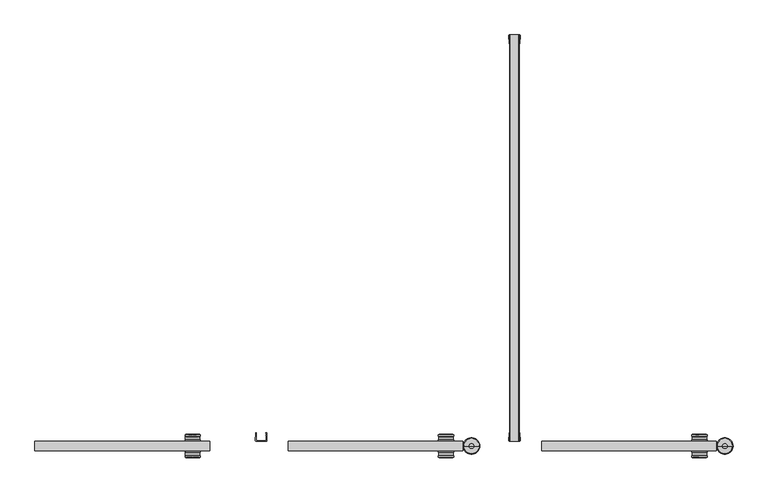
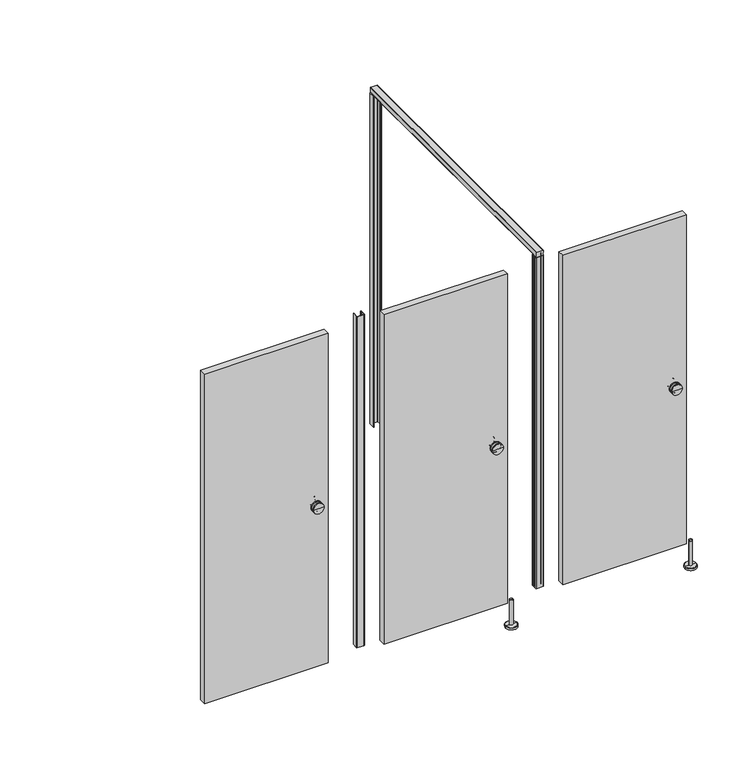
"""IFC4 building model written with IfcOpenShell, lengths in millimetres: proxy geometry, Partition_EuroStyle-Bradley_Corp-ADAStall_3StandardStall-NEP-LOFT : Partition_EuroStyle-Bradley_Corp-ADAStall_3StandardStall-NEP-LOFT."""

from ifc_helpers import new_model, si_unit, point, frame, frame_2d, origin, place, context, project, spatial, polyline, circle_curve, ellipse_curve, trimmed, segment, composite_curve, outline, extrude, source, transform, mapped, element, save
from ifc_brep_helpers import plane_surface, cylinder_surface, revolved_surface, advanced_brep


def specialty_equipment_3219aa44(model_context):
    return source(origin(), model_context, "Body", "SolidModel", [
        advanced_brep(
        [(3980.8451766, -1524.0098174, 1050.0), (4037.9951766, -1524.0098174, 1050.0), (4009.4201766, -1524.0098174, 1050.0), (3980.8451766, -1519.2473174, 1050.0), (4037.9951766, -1519.2473174, 1050.0), (3980.8451766, -1500.1973174, 1050.0), (4037.9951766, -1500.1973174, 1050.0), (4037.9951766, -1504.9598174, 1050.0), (3980.8451766, -1504.9598174, 1050.0), (4036.4076766, -1506.5473174, 1050.0), (3982.4326766, -1506.5473174, 1050.0), (4036.4076766, -1517.6598174, 1050.0), (3982.4326766, -1517.6598174, 1050.0), (4009.4201766, -1498.6098174, 1050.0)],
        [
            (0, 1, circle_curve(frame((4009.4201766, -1524.0098174, 1050.0), z_axis=(0.0, -1.0, 0.0), x_axis=(1.0, 0.0, 0.0)), 28.575)),
            (1, 2),
            (2, 0),
            (1, 0, circle_curve(frame((4009.4201766, -1524.0098174, 1050.0), z_axis=(0.0, -1.0, 0.0), x_axis=(1.0, 0.0, 0.0)), 28.575)),
            (3, 4, circle_curve(frame((4009.4201766, -1519.2473174, 1050.0), z_axis=(0.0, -1.0, 0.0), x_axis=(1.0, 0.0, 0.0)), 28.575)),
            (4, 1),
            (0, 3),
            (4, 3, circle_curve(frame((4009.4201766, -1519.2473174, 1050.0), z_axis=(0.0, -1.0, 0.0), x_axis=(1.0, 0.0, 0.0)), 28.575)),
            (5, 6, circle_curve(frame((4009.4201766, -1500.1973174, 1050.0), z_axis=(0.0, -1.0, 0.0), x_axis=(1.0, 0.0, 0.0)), 28.575)),
            (6, 7),
            (7, 8, circle_curve(frame((4009.4201766, -1504.9598174, 1050.0), z_axis=(0.0, 1.0, 0.0), x_axis=(1.0, 0.0, 0.0)), 28.575)),
            (8, 5),
            (6, 5, circle_curve(frame((4009.4201766, -1500.1973174, 1050.0), z_axis=(0.0, -1.0, 0.0), x_axis=(1.0, 0.0, 0.0)), 28.575)),
            (8, 7, circle_curve(frame((4009.4201766, -1504.9598174, 1050.0), z_axis=(0.0, 1.0, 0.0), x_axis=(1.0, 0.0, 0.0)), 28.575)),
            (7, 9, circle_curve(frame((4037.9951766, -1506.5473174, 1050.0), z_axis=(0.0, 0.0, 1.0), x_axis=(1.0, 0.0, 0.0)), 1.5875)),
            (9, 10, circle_curve(frame((4009.4201766, -1506.5473174, 1050.0), z_axis=(0.0, 1.0, 0.0), x_axis=(1.0, 0.0, 0.0)), 26.9875)),
            (10, 8, circle_curve(frame((3980.8451766, -1506.5473174, 1050.0), z_axis=(0.0, 0.0, 1.0), x_axis=(-1.0, 0.0, 0.0)), 1.5875)),
            (10, 9, circle_curve(frame((4009.4201766, -1506.5473174, 1050.0), z_axis=(0.0, 1.0, 0.0), x_axis=(1.0, 0.0, 0.0)), 26.9875)),
            (9, 11),
            (11, 12, circle_curve(frame((4009.4201766, -1517.6598174, 1050.0), z_axis=(0.0, 1.0, 0.0), x_axis=(1.0, 0.0, 0.0)), 26.9875)),
            (12, 10),
            (12, 11, circle_curve(frame((4009.4201766, -1517.6598174, 1050.0), z_axis=(0.0, 1.0, 0.0), x_axis=(1.0, 0.0, 0.0)), 26.9875)),
            (11, 4, circle_curve(frame((4037.9951766, -1517.6598174, 1050.0), z_axis=(0.0, 0.0, 1.0), x_axis=(1.0, 0.0, 0.0)), 1.5875)),
            (3, 12, circle_curve(frame((3980.8451766, -1517.6598174, 1050.0), z_axis=(0.0, 0.0, 1.0), x_axis=(-1.0, 0.0, 0.0)), 1.5875)),
            (13, 6, circle_curve(frame((4013.1143, -1690.0843466, 1050.0), z_axis=(0.0, 0.0, -1.0), x_axis=(1.0, 0.0, 0.0)), 191.5101613)),
            (5, 13, circle_curve(frame((4005.7260533, -1690.0843466, 1050.0), z_axis=(0.0, 0.0, -1.0), x_axis=(-1.0, 0.0, 0.0)), 191.5101613)),
        ],
        [
            plane_surface(frame((4009.4201766, -1524.0098174, 1050.0), z_axis=(0.0, -1.0, 0.0), x_axis=(1.0, 0.0, 0.0))),
            cylinder_surface(frame((4009.4201766, -1524.0098174, 1050.0), z_axis=(0.0, 1.0, 0.0), x_axis=(1.0, 0.0, 0.0)), 28.575),
            revolved_surface(trimmed(ellipse_curve(frame((4037.9951766, -1506.5473174, 1050.0), z_axis=(0.0, 0.0, -1.0), x_axis=(1.0, 0.0, 0.0)), 1.5875, 1.5875), [point((4036.4076766, -1506.5473174, 1050.0))], [point((4037.9951766, -1504.9598174, 1050.0))], True, "CARTESIAN"), (4009.4201766, -1524.0098174, 1050.0), (0.0, 1.0, 0.0)),
            cylinder_surface(frame((4009.4201766, -1524.0098174, 1050.0), z_axis=(0.0, 1.0, 0.0), x_axis=(1.0, 0.0, 0.0)), 26.9875),
            revolved_surface(trimmed(ellipse_curve(frame((4037.9951766, -1517.6598174, 1050.0), z_axis=(0.0, 0.0, -1.0), x_axis=(1.0, 0.0, 0.0)), 1.5875, 1.5875), [point((4037.9951766, -1519.2473174, 1050.0))], [point((4036.4076766, -1517.6598174, 1050.0))], True, "CARTESIAN"), (4009.4201766, -1524.0098174, 1050.0), (0.0, 1.0, 0.0)),
            revolved_surface(trimmed(ellipse_curve(frame((4013.1143, -1690.0843466, 1050.0), z_axis=(0.0, 0.0, 1.0), x_axis=(1.0, 0.0, 0.0)), 191.5101613, 191.5101613), [point((4037.9951766, -1500.1973174, 1050.0))], [point((4009.4201766, -1498.6098174, 1050.0))], True, "CARTESIAN"), (4009.4201766, -1524.0098174, 1050.0), (0.0, 1.0, 0.0)),
        ],
        [
            (0, [[1, 2, 3]]),
            (0, [[4, -3, -2]]),
            (1, [[5, 6, -1, 7]]),
            (1, [[8, -7, -4, -6]]),
            (1, [[9, 10, 11, 12]]),
            (1, [[13, -12, 14, -10]]),
            (2, [[-11, 15, 16, 17]]),
            (2, [[-14, -17, 18, -15]]),
            (3, [[-16, 19, 20, 21]]),
            (3, [[-18, -21, 22, -19]]),
            (4, [[-20, 23, -5, 24]]),
            (4, [[-22, -24, -8, -23]]),
            (5, [[25, -9, 26]]),
            (5, [[-26, -13, -25]]),
        ],
    ),
        advanced_brep(
        [(4009.4201766, -1560.0098174, 1050.0), (4037.9951766, -1560.0098174, 1050.0), (3980.8451766, -1560.0098174, 1050.0), (4037.9951766, -1564.7723174, 1050.0), (3980.8451766, -1564.7723174, 1050.0), (3980.8451766, -1579.0598174, 1050.0), (4037.9951766, -1579.0598174, 1050.0), (4037.9951766, -1583.8223174, 1050.0), (3980.8451766, -1583.8223174, 1050.0), (3982.4326766, -1577.4723174, 1050.0), (4036.4076766, -1577.4723174, 1050.0), (3982.4326766, -1566.3598174, 1050.0), (4036.4076766, -1566.3598174, 1050.0), (4009.4201766, -1585.4098174, 1050.0)],
        [
            (0, 1),
            (1, 2, circle_curve(frame((4009.4201766, -1560.0098174, 1050.0), z_axis=(0.0, 1.0, 0.0), x_axis=(1.0, 0.0, 0.0)), 28.575)),
            (2, 0),
            (2, 1, circle_curve(frame((4009.4201766, -1560.0098174, 1050.0), z_axis=(0.0, 1.0, 0.0), x_axis=(1.0, 0.0, 0.0)), 28.575)),
            (1, 3),
            (3, 4, circle_curve(frame((4009.4201766, -1564.7723174, 1050.0), z_axis=(0.0, 1.0, 0.0), x_axis=(1.0, 0.0, 0.0)), 28.575)),
            (4, 2),
            (4, 3, circle_curve(frame((4009.4201766, -1564.7723174, 1050.0), z_axis=(0.0, 1.0, 0.0), x_axis=(1.0, 0.0, 0.0)), 28.575)),
            (5, 6, circle_curve(frame((4009.4201766, -1579.0598174, 1050.0), z_axis=(0.0, -1.0, 0.0), x_axis=(1.0, 0.0, 0.0)), 28.575)),
            (6, 7),
            (7, 8, circle_curve(frame((4009.4201766, -1583.8223174, 1050.0), z_axis=(0.0, 1.0, 0.0), x_axis=(1.0, 0.0, 0.0)), 28.575)),
            (8, 5),
            (6, 5, circle_curve(frame((4009.4201766, -1579.0598174, 1050.0), z_axis=(0.0, -1.0, 0.0), x_axis=(1.0, 0.0, 0.0)), 28.575)),
            (8, 7, circle_curve(frame((4009.4201766, -1583.8223174, 1050.0), z_axis=(0.0, 1.0, 0.0), x_axis=(1.0, 0.0, 0.0)), 28.575)),
            (9, 10, circle_curve(frame((4009.4201766, -1577.4723174, 1050.0), z_axis=(0.0, -1.0, 0.0), x_axis=(1.0, 0.0, 0.0)), 26.9875)),
            (10, 6, circle_curve(frame((4037.9951766, -1577.4723174, 1050.0), z_axis=(0.0, 0.0, 1.0), x_axis=(1.0, 0.0, 0.0)), 1.5875)),
            (5, 9, circle_curve(frame((3980.8451766, -1577.4723174, 1050.0), z_axis=(0.0, 0.0, 1.0), x_axis=(-1.0, 0.0, 0.0)), 1.5875)),
            (10, 9, circle_curve(frame((4009.4201766, -1577.4723174, 1050.0), z_axis=(0.0, -1.0, 0.0), x_axis=(1.0, 0.0, 0.0)), 26.9875)),
            (11, 12, circle_curve(frame((4009.4201766, -1566.3598174, 1050.0), z_axis=(0.0, -1.0, 0.0), x_axis=(1.0, 0.0, 0.0)), 26.9875)),
            (12, 10),
            (9, 11),
            (12, 11, circle_curve(frame((4009.4201766, -1566.3598174, 1050.0), z_axis=(0.0, -1.0, 0.0), x_axis=(1.0, 0.0, 0.0)), 26.9875)),
            (3, 12, circle_curve(frame((4037.9951766, -1566.3598174, 1050.0), z_axis=(0.0, 0.0, 1.0), x_axis=(1.0, 0.0, 0.0)), 1.5875)),
            (11, 4, circle_curve(frame((3980.8451766, -1566.3598174, 1050.0), z_axis=(0.0, 0.0, 1.0), x_axis=(-1.0, 0.0, 0.0)), 1.5875)),
            (7, 13, circle_curve(frame((4013.1143, -1393.9352882, 1050.0), z_axis=(0.0, 0.0, -1.0), x_axis=(1.0, 0.0, 0.0)), 191.5101613)),
            (13, 8, circle_curve(frame((4005.7260533, -1393.9352882, 1050.0), z_axis=(0.0, 0.0, -1.0), x_axis=(-1.0, 0.0, 0.0)), 191.5101613)),
        ],
        [
            plane_surface(frame((4009.4201766, -1560.0098174, 1050.0), z_axis=(0.0, 1.0, 0.0), x_axis=(1.0, 0.0, 0.0))),
            cylinder_surface(frame((4009.4201766, -1560.0098174, 1050.0), z_axis=(0.0, 1.0, 0.0), x_axis=(1.0, 0.0, 0.0)), 28.575),
            revolved_surface(trimmed(ellipse_curve(frame((4037.9951766, -1577.4723174, 1050.0), z_axis=(0.0, 0.0, -1.0), x_axis=(1.0, 0.0, 0.0)), 1.5875, 1.5875), [point((4037.9951766, -1579.0598174, 1050.0))], [point((4036.4076766, -1577.4723174, 1050.0))], True, "CARTESIAN"), (4009.4201766, -1560.0098174, 1050.0), (0.0, 1.0, 0.0)),
            cylinder_surface(frame((4009.4201766, -1560.0098174, 1050.0), z_axis=(0.0, 1.0, 0.0), x_axis=(1.0, 0.0, 0.0)), 26.9875),
            revolved_surface(trimmed(ellipse_curve(frame((4037.9951766, -1566.3598174, 1050.0), z_axis=(0.0, 0.0, -1.0), x_axis=(1.0, 0.0, 0.0)), 1.5875, 1.5875), [point((4036.4076766, -1566.3598174, 1050.0))], [point((4037.9951766, -1564.7723174, 1050.0))], True, "CARTESIAN"), (4009.4201766, -1560.0098174, 1050.0), (0.0, 1.0, 0.0)),
            revolved_surface(trimmed(ellipse_curve(frame((4013.1143, -1393.9352882, 1050.0), z_axis=(0.0, 0.0, 1.0), x_axis=(1.0, 0.0, 0.0)), 191.5101613, 191.5101613), [point((4009.4201766, -1585.4098174, 1050.0))], [point((4037.9951766, -1583.8223174, 1050.0))], True, "CARTESIAN"), (4009.4201766, -1560.0098174, 1050.0), (0.0, 1.0, 0.0)),
        ],
        [
            (0, [[1, 2, 3]]),
            (0, [[-3, 4, -1]]),
            (1, [[-2, 5, 6, 7]]),
            (1, [[-4, -7, 8, -5]]),
            (1, [[9, 10, 11, 12]]),
            (1, [[13, -12, 14, -10]]),
            (2, [[15, 16, -9, 17]]),
            (2, [[18, -17, -13, -16]]),
            (3, [[19, 20, -15, 21]]),
            (3, [[22, -21, -18, -20]]),
            (4, [[-6, 23, -19, 24]]),
            (4, [[-8, -24, -22, -23]]),
            (5, [[-11, 25, 26]]),
            (5, [[-14, -26, -25]]),
        ],
    ),
        extrude(outline(polyline([(3417.8170903, -1523.9894923), (4072.9201766, -1523.9894923), (4072.9201766, -1560.0098174), (3417.8170903, -1560.0098174), (3417.8170903, -1523.9894923)])), frame((0.0, 0.0, 150.1179687), z_axis=(0.0, 0.0, 1.0), x_axis=(1.0, 0.0, 0.0)), (0.0, 0.0, 1.0), 1845.8820313),
        extrude(outline(composite_curve([segment(polyline([(3295.3288796, -1491.4999998), (3296.8274652, -1491.4999998)]), True, "CONTINUOUS"), segment(trimmed(circle_curve(frame_2d((3296.8238978, -1492.4990918)), 0.9990984), [point((3296.8274652, -1491.4999998))], [point((3297.2975504, -1493.3787798))], False, "CARTESIAN"), True, "CONTINUOUS"), segment(polyline([(3297.2975504, -1493.3787798), (3297.1764404, -1500.6424298)]), True, "CONTINUOUS"), segment(trimmed(circle_curve(frame_2d((3296.6588945, -1501.4999449)), 1.0015917), [point((3297.1764404, -1500.6424298))], [point((3297.1475604, -1502.3742398))], False, "CARTESIAN"), True, "CONTINUOUS"), segment(polyline([(3297.1475604, -1502.3742398), (3296.8535049, -1520.0104531)]), True, "CONTINUOUS"), segment(trimmed(circle_curve(frame_2d((3298.8536968, -1519.9997796)), 2.0002204), [point((3296.8535049, -1520.0104531))], [point((3298.8536968, -1522.0))], True, "CARTESIAN"), True, "CONTINUOUS"), segment(polyline([(3298.8536968, -1522.0), (3332.7379958, -1522.0)]), True, "CONTINUOUS"), segment(trimmed(circle_curve(frame_2d((3332.7870154, -1520.0009061)), 1.9996948), [point((3332.7379958, -1522.0))], [point((3334.78671, -1520.0))], True, "CARTESIAN"), True, "CONTINUOUS"), segment(polyline([(3334.78671, -1520.0), (3334.4926587, -1502.3739987)]), True, "CONTINUOUS"), segment(trimmed(circle_curve(frame_2d((3334.9817558, -1501.4999449)), 1.0015917), [point((3334.4926587, -1502.3739987))], [point((3334.4642099, -1500.6424298))], False, "CARTESIAN"), True, "CONTINUOUS"), segment(polyline([(3334.4642099, -1500.6424298), (3334.3430999, -1493.3787798)]), True, "CONTINUOUS"), segment(trimmed(circle_curve(frame_2d((3334.8167525, -1492.4990918)), 0.9990984), [point((3334.3430999, -1493.3787798))], [point((3334.8131851, -1491.4999998))], False, "CARTESIAN"), True, "CONTINUOUS"), segment(polyline([(3334.8131851, -1491.4999998), (3336.3117707, -1491.4999998), (3336.8201098, -1521.97082)]), True, "CONTINUOUS"), segment(trimmed(circle_curve(frame_2d((3334.7909298, -1521.97082)), 2.02918), [point((3336.8201098, -1521.97082))], [point((3334.7909298, -1524.0))], False, "CARTESIAN"), True, "CONTINUOUS"), segment(polyline([(3334.7909298, -1524.0), (3296.8497205, -1524.0)]), True, "CONTINUOUS"), segment(trimmed(circle_curve(frame_2d((3296.8497205, -1521.97082)), 2.02918), [point((3296.8497205, -1524.0))], [point((3294.8205405, -1521.97082))], False, "CARTESIAN"), True, "CONTINUOUS"), segment(polyline([(3294.8205405, -1521.97082), (3295.3288796, -1491.4999998)]), True, "CONTINUOUS")], self_intersect=False)), frame((0.0, 0.0, 150.0), z_axis=(0.0, 0.0, 1.0), x_axis=(1.0, 0.0, 0.0)), (0.0, 0.0, 1.0), 1855.0),
        advanced_brep(
        [(4095.8453255, -1541.9996549, 150.0000008), (4113.8453248, -1541.9996549, 150.0000008), (4113.8453248, -1541.9996549, 12.0000001), (4095.8453255, -1541.9996549, 12.0000001), (4104.8453251, -1541.9996549, 150.0000008), (4073.8453262, -1541.9996549, 0.0), (4135.8453241, -1541.9996549, 0.0), (4104.8453251, -1541.9996549, 0.0), (4073.8453262, -1541.9996549, 10.0000001), (4135.8453241, -1541.9996549, 10.0000001), (4075.8477381, -1541.9996549, 12.0000001), (4133.8429122, -1541.9996549, 12.0000001)],
        [
            (0, 1, circle_curve(frame((4104.8453251, -1541.9996549, 150.0000008), z_axis=(0.0, 0.0, -1.0), x_axis=(1.0, 0.0, 0.0)), 8.9999997)),
            (1, 2),
            (2, 3, circle_curve(frame((4104.8453251, -1541.9996549, 12.0000001), z_axis=(0.0, 0.0, 1.0), x_axis=(1.0, 0.0, 0.0)), 8.9999997)),
            (3, 0),
            (1, 0, circle_curve(frame((4104.8453251, -1541.9996549, 150.0000008), z_axis=(0.0, 0.0, -1.0), x_axis=(1.0, 0.0, 0.0)), 8.9999997)),
            (3, 2, circle_curve(frame((4104.8453251, -1541.9996549, 12.0000001), z_axis=(0.0, 0.0, 1.0), x_axis=(1.0, 0.0, 0.0)), 8.9999997)),
            (4, 1),
            (0, 4),
            (5, 6, circle_curve(frame((4104.8453251, -1541.9996549, 0.0), z_axis=(0.0, 0.0, -1.0), x_axis=(1.0, 0.0, 0.0)), 30.9999989)),
            (6, 7),
            (7, 5),
            (6, 5, circle_curve(frame((4104.8453251, -1541.9996549, 0.0), z_axis=(0.0, 0.0, -1.0), x_axis=(1.0, 0.0, 0.0)), 30.9999989)),
            (8, 9, circle_curve(frame((4104.8453251, -1541.9996549, 10.0000001), z_axis=(0.0, 0.0, -1.0), x_axis=(1.0, 0.0, 0.0)), 30.9999989)),
            (9, 6),
            (5, 8),
            (9, 8, circle_curve(frame((4104.8453251, -1541.9996549, 10.0000001), z_axis=(0.0, 0.0, -1.0), x_axis=(1.0, 0.0, 0.0)), 30.9999989)),
            (10, 11, circle_curve(frame((4104.8453251, -1541.9996549, 12.0000001), z_axis=(0.0, 0.0, -1.0), x_axis=(1.0, 0.0, 0.0)), 28.997587)),
            (11, 9),
            (8, 10),
            (11, 10, circle_curve(frame((4104.8453251, -1541.9996549, 12.0000001), z_axis=(0.0, 0.0, -1.0), x_axis=(1.0, 0.0, 0.0)), 28.997587)),
            (2, 11),
            (10, 3),
        ],
        [
            cylinder_surface(frame((4104.8453251, -1541.9996549, 0.0), z_axis=(0.0, 0.0, 1.0), x_axis=(1.0, 0.0, 0.0)), 8.9999997),
            plane_surface(frame((4104.8453251, -1541.9996549, 150.0000008), z_axis=(0.0, 0.0, 1.0), x_axis=(1.0, 0.0, 0.0))),
            plane_surface(frame((4104.8453251, -1541.9996549, 0.0), z_axis=(0.0, 0.0, -1.0), x_axis=(1.0, 0.0, 0.0))),
            cylinder_surface(frame((4104.8453251, -1541.9996549, 0.0), z_axis=(0.0, 0.0, 1.0), x_axis=(1.0, 0.0, 0.0)), 30.9999989),
            revolved_surface(polyline([(4135.8453241, -1541.9996549, 10.0000001), (4133.8429122, -1541.9996549, 12.0000001)]), (4104.8453251, -1541.9996549, 0.0), (0.0, 0.0, 1.0)),
            plane_surface(frame((4104.8453251, -1541.9996549, 12.0000001), z_axis=(0.0, 0.0, 1.0), x_axis=(1.0, 0.0, 0.0))),
        ],
        [
            (0, [[1, 2, 3, 4]]),
            (0, [[5, -4, 6, -2]]),
            (1, [[7, -1, 8]]),
            (1, [[-8, -5, -7]]),
            (2, [[9, 10, 11]]),
            (2, [[12, -11, -10]]),
            (3, [[13, 14, -9, 15]]),
            (3, [[16, -15, -12, -14]]),
            (4, [[17, 18, -13, 19]]),
            (4, [[20, -19, -16, -18]]),
            (5, [[-3, 21, -17, 22]]),
            (5, [[-6, -22, -20, -21]]),
        ],
    ),
        extrude(outline(composite_curve([segment(polyline([(2344.9288796, -1491.4999998), (2346.4274652, -1491.4999998)]), True, "CONTINUOUS"), segment(trimmed(circle_curve(frame_2d((2346.4238978, -1492.4990918)), 0.9990984), [point((2346.4274652, -1491.4999998))], [point((2346.8975504, -1493.3787798))], False, "CARTESIAN"), True, "CONTINUOUS"), segment(polyline([(2346.8975504, -1493.3787798), (2346.7764404, -1500.6424298)]), True, "CONTINUOUS"), segment(trimmed(circle_curve(frame_2d((2346.2588945, -1501.4999449)), 1.0015917), [point((2346.7764404, -1500.6424298))], [point((2346.7475604, -1502.3742398))], False, "CARTESIAN"), True, "CONTINUOUS"), segment(polyline([(2346.7475604, -1502.3742398), (2346.4535049, -1520.0104531)]), True, "CONTINUOUS"), segment(trimmed(circle_curve(frame_2d((2348.4536968, -1519.9997796)), 2.0002204), [point((2346.4535049, -1520.0104531))], [point((2348.4536968, -1522.0))], True, "CARTESIAN"), True, "CONTINUOUS"), segment(polyline([(2348.4536968, -1522.0), (2382.3379958, -1522.0)]), True, "CONTINUOUS"), segment(trimmed(circle_curve(frame_2d((2382.3870154, -1520.0009061)), 1.9996948), [point((2382.3379958, -1522.0))], [point((2384.38671, -1520.0))], True, "CARTESIAN"), True, "CONTINUOUS"), segment(polyline([(2384.38671, -1520.0), (2384.0926587, -1502.3739987)]), True, "CONTINUOUS"), segment(trimmed(circle_curve(frame_2d((2384.5817558, -1501.4999449)), 1.0015917), [point((2384.0926587, -1502.3739987))], [point((2384.0642099, -1500.6424298))], False, "CARTESIAN"), True, "CONTINUOUS"), segment(polyline([(2384.0642099, -1500.6424298), (2383.9430999, -1493.3787798)]), True, "CONTINUOUS"), segment(trimmed(circle_curve(frame_2d((2384.4167525, -1492.4990918)), 0.9990984), [point((2383.9430999, -1493.3787798))], [point((2384.4131851, -1491.4999998))], False, "CARTESIAN"), True, "CONTINUOUS"), segment(polyline([(2384.4131851, -1491.4999998), (2385.9117707, -1491.4999998), (2386.4201098, -1521.97082)]), True, "CONTINUOUS"), segment(trimmed(circle_curve(frame_2d((2384.3909298, -1521.97082)), 2.02918), [point((2386.4201098, -1521.97082))], [point((2384.3909298, -1524.0))], False, "CARTESIAN"), True, "CONTINUOUS"), segment(polyline([(2384.3909298, -1524.0), (2346.4497205, -1524.0)]), True, "CONTINUOUS"), segment(trimmed(circle_curve(frame_2d((2346.4497205, -1521.97082)), 2.02918), [point((2346.4497205, -1524.0))], [point((2344.4205405, -1521.97082))], False, "CARTESIAN"), True, "CONTINUOUS"), segment(polyline([(2344.4205405, -1521.97082), (2344.9288796, -1491.4999998)]), True, "CONTINUOUS")], self_intersect=False)), frame((0.0, 0.0, 150.0), z_axis=(0.0, 0.0, 1.0), x_axis=(1.0, 0.0, 0.0)), (0.0, 0.0, 1.0), 1855.0),
        advanced_brep(
        [(3030.4451766, -1524.0098174, 1050.0), (3087.5951766, -1524.0098174, 1050.0), (3059.0201766, -1524.0098174, 1050.0), (3030.4451766, -1519.2473174, 1050.0), (3087.5951766, -1519.2473174, 1050.0), (3030.4451766, -1500.1973174, 1050.0), (3087.5951766, -1500.1973174, 1050.0), (3087.5951766, -1504.9598174, 1050.0), (3030.4451766, -1504.9598174, 1050.0), (3086.0076766, -1506.5473174, 1050.0), (3032.0326766, -1506.5473174, 1050.0), (3086.0076766, -1517.6598174, 1050.0), (3032.0326766, -1517.6598174, 1050.0), (3059.0201766, -1498.6098174, 1050.0)],
        [
            (0, 1, circle_curve(frame((3059.0201766, -1524.0098174, 1050.0), z_axis=(0.0, -1.0, 0.0), x_axis=(1.0, 0.0, 0.0)), 28.575)),
            (1, 2),
            (2, 0),
            (1, 0, circle_curve(frame((3059.0201766, -1524.0098174, 1050.0), z_axis=(0.0, -1.0, 0.0), x_axis=(1.0, 0.0, 0.0)), 28.575)),
            (3, 4, circle_curve(frame((3059.0201766, -1519.2473174, 1050.0), z_axis=(0.0, -1.0, 0.0), x_axis=(1.0, 0.0, 0.0)), 28.575)),
            (4, 1),
            (0, 3),
            (4, 3, circle_curve(frame((3059.0201766, -1519.2473174, 1050.0), z_axis=(0.0, -1.0, 0.0), x_axis=(1.0, 0.0, 0.0)), 28.575)),
            (5, 6, circle_curve(frame((3059.0201766, -1500.1973174, 1050.0), z_axis=(0.0, -1.0, 0.0), x_axis=(1.0, 0.0, 0.0)), 28.575)),
            (6, 7),
            (7, 8, circle_curve(frame((3059.0201766, -1504.9598174, 1050.0), z_axis=(0.0, 1.0, 0.0), x_axis=(1.0, 0.0, 0.0)), 28.575)),
            (8, 5),
            (6, 5, circle_curve(frame((3059.0201766, -1500.1973174, 1050.0), z_axis=(0.0, -1.0, 0.0), x_axis=(1.0, 0.0, 0.0)), 28.575)),
            (8, 7, circle_curve(frame((3059.0201766, -1504.9598174, 1050.0), z_axis=(0.0, 1.0, 0.0), x_axis=(1.0, 0.0, 0.0)), 28.575)),
            (7, 9, circle_curve(frame((3087.5951766, -1506.5473174, 1050.0), z_axis=(0.0, 0.0, 1.0), x_axis=(1.0, 0.0, 0.0)), 1.5875)),
            (9, 10, circle_curve(frame((3059.0201766, -1506.5473174, 1050.0), z_axis=(0.0, 1.0, 0.0), x_axis=(1.0, 0.0, 0.0)), 26.9875)),
            (10, 8, circle_curve(frame((3030.4451766, -1506.5473174, 1050.0), z_axis=(0.0, 0.0, 1.0), x_axis=(-1.0, 0.0, 0.0)), 1.5875)),
            (10, 9, circle_curve(frame((3059.0201766, -1506.5473174, 1050.0), z_axis=(0.0, 1.0, 0.0), x_axis=(1.0, 0.0, 0.0)), 26.9875)),
            (9, 11),
            (11, 12, circle_curve(frame((3059.0201766, -1517.6598174, 1050.0), z_axis=(0.0, 1.0, 0.0), x_axis=(1.0, 0.0, 0.0)), 26.9875)),
            (12, 10),
            (12, 11, circle_curve(frame((3059.0201766, -1517.6598174, 1050.0), z_axis=(0.0, 1.0, 0.0), x_axis=(1.0, 0.0, 0.0)), 26.9875)),
            (11, 4, circle_curve(frame((3087.5951766, -1517.6598174, 1050.0), z_axis=(0.0, 0.0, 1.0), x_axis=(1.0, 0.0, 0.0)), 1.5875)),
            (3, 12, circle_curve(frame((3030.4451766, -1517.6598174, 1050.0), z_axis=(0.0, 0.0, 1.0), x_axis=(-1.0, 0.0, 0.0)), 1.5875)),
            (13, 6, circle_curve(frame((3062.7143, -1690.0843466, 1050.0), z_axis=(0.0, 0.0, -1.0), x_axis=(1.0, 0.0, 0.0)), 191.5101613)),
            (5, 13, circle_curve(frame((3055.3260533, -1690.0843466, 1050.0), z_axis=(0.0, 0.0, -1.0), x_axis=(-1.0, 0.0, 0.0)), 191.5101613)),
        ],
        [
            plane_surface(frame((3059.0201766, -1524.0098174, 1050.0), z_axis=(0.0, -1.0, 0.0), x_axis=(1.0, 0.0, 0.0))),
            cylinder_surface(frame((3059.0201766, -1524.0098174, 1050.0), z_axis=(0.0, 1.0, 0.0), x_axis=(1.0, 0.0, 0.0)), 28.575),
            revolved_surface(trimmed(ellipse_curve(frame((3087.5951766, -1506.5473174, 1050.0), z_axis=(0.0, 0.0, -1.0), x_axis=(1.0, 0.0, 0.0)), 1.5875, 1.5875), [point((3086.0076766, -1506.5473174, 1050.0))], [point((3087.5951766, -1504.9598174, 1050.0))], True, "CARTESIAN"), (3059.0201766, -1524.0098174, 1050.0), (0.0, 1.0, 0.0)),
            cylinder_surface(frame((3059.0201766, -1524.0098174, 1050.0), z_axis=(0.0, 1.0, 0.0), x_axis=(1.0, 0.0, 0.0)), 26.9875),
            revolved_surface(trimmed(ellipse_curve(frame((3087.5951766, -1517.6598174, 1050.0), z_axis=(0.0, 0.0, -1.0), x_axis=(1.0, 0.0, 0.0)), 1.5875, 1.5875), [point((3087.5951766, -1519.2473174, 1050.0))], [point((3086.0076766, -1517.6598174, 1050.0))], True, "CARTESIAN"), (3059.0201766, -1524.0098174, 1050.0), (0.0, 1.0, 0.0)),
            revolved_surface(trimmed(ellipse_curve(frame((3062.7143, -1690.0843466, 1050.0), z_axis=(0.0, 0.0, 1.0), x_axis=(1.0, 0.0, 0.0)), 191.5101613, 191.5101613), [point((3087.5951766, -1500.1973174, 1050.0))], [point((3059.0201766, -1498.6098174, 1050.0))], True, "CARTESIAN"), (3059.0201766, -1524.0098174, 1050.0), (0.0, 1.0, 0.0)),
        ],
        [
            (0, [[1, 2, 3]]),
            (0, [[4, -3, -2]]),
            (1, [[5, 6, -1, 7]]),
            (1, [[8, -7, -4, -6]]),
            (1, [[9, 10, 11, 12]]),
            (1, [[13, -12, 14, -10]]),
            (2, [[-11, 15, 16, 17]]),
            (2, [[-14, -17, 18, -15]]),
            (3, [[-16, 19, 20, 21]]),
            (3, [[-18, -21, 22, -19]]),
            (4, [[-20, 23, -5, 24]]),
            (4, [[-22, -24, -8, -23]]),
            (5, [[25, -9, 26]]),
            (5, [[-26, -13, -25]]),
        ],
    ),
        advanced_brep(
        [(3059.0201766, -1560.0098174, 1050.0), (3087.5951766, -1560.0098174, 1050.0), (3030.4451766, -1560.0098174, 1050.0), (3087.5951766, -1564.7723174, 1050.0), (3030.4451766, -1564.7723174, 1050.0), (3030.4451766, -1579.0598174, 1050.0), (3087.5951766, -1579.0598174, 1050.0), (3087.5951766, -1583.8223174, 1050.0), (3030.4451766, -1583.8223174, 1050.0), (3032.0326766, -1577.4723174, 1050.0), (3086.0076766, -1577.4723174, 1050.0), (3032.0326766, -1566.3598174, 1050.0), (3086.0076766, -1566.3598174, 1050.0), (3059.0201766, -1585.4098174, 1050.0)],
        [
            (0, 1),
            (1, 2, circle_curve(frame((3059.0201766, -1560.0098174, 1050.0), z_axis=(0.0, 1.0, 0.0), x_axis=(1.0, 0.0, 0.0)), 28.575)),
            (2, 0),
            (2, 1, circle_curve(frame((3059.0201766, -1560.0098174, 1050.0), z_axis=(0.0, 1.0, 0.0), x_axis=(1.0, 0.0, 0.0)), 28.575)),
            (1, 3),
            (3, 4, circle_curve(frame((3059.0201766, -1564.7723174, 1050.0), z_axis=(0.0, 1.0, 0.0), x_axis=(1.0, 0.0, 0.0)), 28.575)),
            (4, 2),
            (4, 3, circle_curve(frame((3059.0201766, -1564.7723174, 1050.0), z_axis=(0.0, 1.0, 0.0), x_axis=(1.0, 0.0, 0.0)), 28.575)),
            (5, 6, circle_curve(frame((3059.0201766, -1579.0598174, 1050.0), z_axis=(0.0, -1.0, 0.0), x_axis=(1.0, 0.0, 0.0)), 28.575)),
            (6, 7),
            (7, 8, circle_curve(frame((3059.0201766, -1583.8223174, 1050.0), z_axis=(0.0, 1.0, 0.0), x_axis=(1.0, 0.0, 0.0)), 28.575)),
            (8, 5),
            (6, 5, circle_curve(frame((3059.0201766, -1579.0598174, 1050.0), z_axis=(0.0, -1.0, 0.0), x_axis=(1.0, 0.0, 0.0)), 28.575)),
            (8, 7, circle_curve(frame((3059.0201766, -1583.8223174, 1050.0), z_axis=(0.0, 1.0, 0.0), x_axis=(1.0, 0.0, 0.0)), 28.575)),
            (9, 10, circle_curve(frame((3059.0201766, -1577.4723174, 1050.0), z_axis=(0.0, -1.0, 0.0), x_axis=(1.0, 0.0, 0.0)), 26.9875)),
            (10, 6, circle_curve(frame((3087.5951766, -1577.4723174, 1050.0), z_axis=(0.0, 0.0, 1.0), x_axis=(1.0, 0.0, 0.0)), 1.5875)),
            (5, 9, circle_curve(frame((3030.4451766, -1577.4723174, 1050.0), z_axis=(0.0, 0.0, 1.0), x_axis=(-1.0, 0.0, 0.0)), 1.5875)),
            (10, 9, circle_curve(frame((3059.0201766, -1577.4723174, 1050.0), z_axis=(0.0, -1.0, 0.0), x_axis=(1.0, 0.0, 0.0)), 26.9875)),
            (11, 12, circle_curve(frame((3059.0201766, -1566.3598174, 1050.0), z_axis=(0.0, -1.0, 0.0), x_axis=(1.0, 0.0, 0.0)), 26.9875)),
            (12, 10),
            (9, 11),
            (12, 11, circle_curve(frame((3059.0201766, -1566.3598174, 1050.0), z_axis=(0.0, -1.0, 0.0), x_axis=(1.0, 0.0, 0.0)), 26.9875)),
            (3, 12, circle_curve(frame((3087.5951766, -1566.3598174, 1050.0), z_axis=(0.0, 0.0, 1.0), x_axis=(1.0, 0.0, 0.0)), 1.5875)),
            (11, 4, circle_curve(frame((3030.4451766, -1566.3598174, 1050.0), z_axis=(0.0, 0.0, 1.0), x_axis=(-1.0, 0.0, 0.0)), 1.5875)),
            (7, 13, circle_curve(frame((3062.7143, -1393.9352882, 1050.0), z_axis=(0.0, 0.0, -1.0), x_axis=(1.0, 0.0, 0.0)), 191.5101613)),
            (13, 8, circle_curve(frame((3055.3260533, -1393.9352882, 1050.0), z_axis=(0.0, 0.0, -1.0), x_axis=(-1.0, 0.0, 0.0)), 191.5101613)),
        ],
        [
            plane_surface(frame((3059.0201766, -1560.0098174, 1050.0), z_axis=(0.0, 1.0, 0.0), x_axis=(1.0, 0.0, 0.0))),
            cylinder_surface(frame((3059.0201766, -1560.0098174, 1050.0), z_axis=(0.0, 1.0, 0.0), x_axis=(1.0, 0.0, 0.0)), 28.575),
            revolved_surface(trimmed(ellipse_curve(frame((3087.5951766, -1577.4723174, 1050.0), z_axis=(0.0, 0.0, -1.0), x_axis=(1.0, 0.0, 0.0)), 1.5875, 1.5875), [point((3087.5951766, -1579.0598174, 1050.0))], [point((3086.0076766, -1577.4723174, 1050.0))], True, "CARTESIAN"), (3059.0201766, -1560.0098174, 1050.0), (0.0, 1.0, 0.0)),
            cylinder_surface(frame((3059.0201766, -1560.0098174, 1050.0), z_axis=(0.0, 1.0, 0.0), x_axis=(1.0, 0.0, 0.0)), 26.9875),
            revolved_surface(trimmed(ellipse_curve(frame((3087.5951766, -1566.3598174, 1050.0), z_axis=(0.0, 0.0, -1.0), x_axis=(1.0, 0.0, 0.0)), 1.5875, 1.5875), [point((3086.0076766, -1566.3598174, 1050.0))], [point((3087.5951766, -1564.7723174, 1050.0))], True, "CARTESIAN"), (3059.0201766, -1560.0098174, 1050.0), (0.0, 1.0, 0.0)),
            revolved_surface(trimmed(ellipse_curve(frame((3062.7143, -1393.9352882, 1050.0), z_axis=(0.0, 0.0, 1.0), x_axis=(1.0, 0.0, 0.0)), 191.5101613, 191.5101613), [point((3059.0201766, -1585.4098174, 1050.0))], [point((3087.5951766, -1583.8223174, 1050.0))], True, "CARTESIAN"), (3059.0201766, -1560.0098174, 1050.0), (0.0, 1.0, 0.0)),
        ],
        [
            (0, [[1, 2, 3]]),
            (0, [[-3, 4, -1]]),
            (1, [[-2, 5, 6, 7]]),
            (1, [[-4, -7, 8, -5]]),
            (1, [[9, 10, 11, 12]]),
            (1, [[13, -12, 14, -10]]),
            (2, [[15, 16, -9, 17]]),
            (2, [[18, -17, -13, -16]]),
            (3, [[19, 20, -15, 21]]),
            (3, [[22, -21, -18, -20]]),
            (4, [[-6, 23, -19, 24]]),
            (4, [[-8, -24, -22, -23]]),
            (5, [[-11, 25, 26]]),
            (5, [[-14, -26, -25]]),
        ],
    ),
        extrude(outline(polyline([(2467.4170903, -1523.9894923), (3122.5201766, -1523.9894923), (3122.5201766, -1560.0098174), (2467.4170903, -1560.0098174), (2467.4170903, -1523.9894923)])), frame((0.0, 0.0, 150.1179687), z_axis=(0.0, 0.0, 1.0), x_axis=(1.0, 0.0, 0.0)), (0.0, 0.0, 1.0), 1845.8820313),
        extrude(outline(composite_curve([segment(polyline([(3295.3288796, -32.5000002), (3294.8205405, -2.02918)]), True, "CONTINUOUS"), segment(trimmed(circle_curve(frame_2d((3296.8497205, -2.02918)), 2.02918), [point((3294.8205405, -2.02918))], [point((3296.8497205, 0.0))], False, "CARTESIAN"), True, "CONTINUOUS"), segment(polyline([(3296.8497205, 0.0), (3334.7909298, 0.0)]), True, "CONTINUOUS"), segment(trimmed(circle_curve(frame_2d((3334.7909298, -2.02918)), 2.02918), [point((3334.7909298, 0.0))], [point((3336.8201098, -2.02918))], False, "CARTESIAN"), True, "CONTINUOUS"), segment(polyline([(3336.8201098, -2.02918), (3336.3117707, -32.5000002), (3334.8131851, -32.5000002)]), True, "CONTINUOUS"), segment(trimmed(circle_curve(frame_2d((3334.8167525, -31.5009082)), 0.9990984), [point((3334.8131851, -32.5000002))], [point((3334.3430999, -30.6212202))], False, "CARTESIAN"), True, "CONTINUOUS"), segment(polyline([(3334.3430999, -30.6212202), (3334.4642099, -23.3575702)]), True, "CONTINUOUS"), segment(trimmed(circle_curve(frame_2d((3334.9817558, -22.5000551)), 1.0015917), [point((3334.4642099, -23.3575702))], [point((3334.4926587, -21.6260013))], False, "CARTESIAN"), True, "CONTINUOUS"), segment(polyline([(3334.4926587, -21.6260013), (3334.78671, -4.0)]), True, "CONTINUOUS"), segment(trimmed(circle_curve(frame_2d((3332.7870154, -3.9990939)), 1.9996948), [point((3334.78671, -4.0))], [point((3332.7379958, -2.0))], True, "CARTESIAN"), True, "CONTINUOUS"), segment(polyline([(3332.7379958, -2.0), (3298.8536968, -2.0)]), True, "CONTINUOUS"), segment(trimmed(circle_curve(frame_2d((3298.8536968, -4.0002204)), 2.0002204), [point((3298.8536968, -2.0))], [point((3296.8535049, -3.9895469))], True, "CARTESIAN"), True, "CONTINUOUS"), segment(polyline([(3296.8535049, -3.9895469), (3297.1475604, -21.6257602)]), True, "CONTINUOUS"), segment(trimmed(circle_curve(frame_2d((3296.6588945, -22.5000551)), 1.0015917), [point((3297.1475604, -21.6257602))], [point((3297.1764404, -23.3575702))], False, "CARTESIAN"), True, "CONTINUOUS"), segment(polyline([(3297.1764404, -23.3575702), (3297.2975504, -30.6212202)]), True, "CONTINUOUS"), segment(trimmed(circle_curve(frame_2d((3296.8238978, -31.5009082)), 0.9990984), [point((3297.2975504, -30.6212202))], [point((3296.8274652, -32.5000002))], False, "CARTESIAN"), True, "CONTINUOUS"), segment(polyline([(3296.8274652, -32.5000002), (3295.3288796, -32.5000002)]), True, "CONTINUOUS")], self_intersect=False)), frame((0.0, 0.0, 150.0), z_axis=(0.0, 0.0, 1.0), x_axis=(1.0, 0.0, 0.0)), (0.0, 0.0, 1.0), 1855.0),
        extrude(outline(composite_curve([segment(polyline([(2032.9666591, 3297.8203701), (2005.7492965, 3298.2741806)]), True, "CONTINUOUS"), segment(trimmed(circle_curve(frame_2d((2005.762, 3299.0360747)), 0.762), [point((2005.7492965, 3298.2741806))], [point((2005.0, 3299.0360747))], False, "CARTESIAN"), True, "CONTINUOUS"), segment(polyline([(2005.0, 3299.0360747), (2005.0, 3332.5733505)]), True, "CONTINUOUS"), segment(trimmed(circle_curve(frame_2d((2005.79375, 3332.5733505)), 0.79375), [point((2005.0, 3332.5733505))], [point((2005.7805172, 3333.3669902))], False, "CARTESIAN"), True, "CONTINUOUS"), segment(polyline([(2005.7805172, 3333.3669902), (2032.9666591, 3333.8202802)]), True, "CONTINUOUS"), segment(trimmed(circle_curve(frame_2d((2033.0000015, 3331.8205597)), 1.9999985), [point((2032.9666591, 3333.8202802))], [point((2035.0, 3331.8205597))], False, "CARTESIAN"), True, "CONTINUOUS"), segment(polyline([(2035.0, 3331.8205597), (2035.0, 3299.8200907)]), True, "CONTINUOUS"), segment(trimmed(circle_curve(frame_2d((2033.0000015, 3299.8200907)), 1.9999985), [point((2035.0, 3299.8200907))], [point((2032.9666591, 3297.8203701))], False, "CARTESIAN"), True, "CONTINUOUS")], self_intersect=False)), frame((0.0, -1524.0, 0.0), z_axis=(0.0, 1.0, 0.0), x_axis=(0.0, 0.0, 1.0)), (0.0, 0.0, 1.0), 1524.0),
        advanced_brep(
        [(3145.4453255, -1541.9996549, 150.0000008), (3163.4453248, -1541.9996549, 150.0000008), (3163.4453248, -1541.9996549, 12.0000001), (3145.4453255, -1541.9996549, 12.0000001), (3154.4453251, -1541.9996549, 150.0000008), (3123.4453262, -1541.9996549, 0.0), (3185.4453241, -1541.9996549, 0.0), (3154.4453251, -1541.9996549, 0.0), (3123.4453262, -1541.9996549, 10.0000001), (3185.4453241, -1541.9996549, 10.0000001), (3125.4477381, -1541.9996549, 12.0000001), (3183.4429122, -1541.9996549, 12.0000001)],
        [
            (0, 1, circle_curve(frame((3154.4453251, -1541.9996549, 150.0000008), z_axis=(0.0, 0.0, -1.0), x_axis=(1.0, 0.0, 0.0)), 8.9999997)),
            (1, 2),
            (2, 3, circle_curve(frame((3154.4453251, -1541.9996549, 12.0000001), z_axis=(0.0, 0.0, 1.0), x_axis=(1.0, 0.0, 0.0)), 8.9999997)),
            (3, 0),
            (1, 0, circle_curve(frame((3154.4453251, -1541.9996549, 150.0000008), z_axis=(0.0, 0.0, -1.0), x_axis=(1.0, 0.0, 0.0)), 8.9999997)),
            (3, 2, circle_curve(frame((3154.4453251, -1541.9996549, 12.0000001), z_axis=(0.0, 0.0, 1.0), x_axis=(1.0, 0.0, 0.0)), 8.9999997)),
            (4, 1),
            (0, 4),
            (5, 6, circle_curve(frame((3154.4453251, -1541.9996549, 0.0), z_axis=(0.0, 0.0, -1.0), x_axis=(1.0, 0.0, 0.0)), 30.9999989)),
            (6, 7),
            (7, 5),
            (6, 5, circle_curve(frame((3154.4453251, -1541.9996549, 0.0), z_axis=(0.0, 0.0, -1.0), x_axis=(1.0, 0.0, 0.0)), 30.9999989)),
            (8, 9, circle_curve(frame((3154.4453251, -1541.9996549, 10.0000001), z_axis=(0.0, 0.0, -1.0), x_axis=(1.0, 0.0, 0.0)), 30.9999989)),
            (9, 6),
            (5, 8),
            (9, 8, circle_curve(frame((3154.4453251, -1541.9996549, 10.0000001), z_axis=(0.0, 0.0, -1.0), x_axis=(1.0, 0.0, 0.0)), 30.9999989)),
            (10, 11, circle_curve(frame((3154.4453251, -1541.9996549, 12.0000001), z_axis=(0.0, 0.0, -1.0), x_axis=(1.0, 0.0, 0.0)), 28.997587)),
            (11, 9),
            (8, 10),
            (11, 10, circle_curve(frame((3154.4453251, -1541.9996549, 12.0000001), z_axis=(0.0, 0.0, -1.0), x_axis=(1.0, 0.0, 0.0)), 28.997587)),
            (2, 11),
            (10, 3),
        ],
        [
            cylinder_surface(frame((3154.4453251, -1541.9996549, 0.0), z_axis=(0.0, 0.0, 1.0), x_axis=(1.0, 0.0, 0.0)), 8.9999997),
            plane_surface(frame((3154.4453251, -1541.9996549, 150.0000008), z_axis=(0.0, 0.0, 1.0), x_axis=(1.0, 0.0, 0.0))),
            plane_surface(frame((3154.4453251, -1541.9996549, 0.0), z_axis=(0.0, 0.0, -1.0), x_axis=(1.0, 0.0, 0.0))),
            cylinder_surface(frame((3154.4453251, -1541.9996549, 0.0), z_axis=(0.0, 0.0, 1.0), x_axis=(1.0, 0.0, 0.0)), 30.9999989),
            revolved_surface(polyline([(3185.4453241, -1541.9996549, 10.0000001), (3183.4429122, -1541.9996549, 12.0000001)]), (3154.4453251, -1541.9996549, 0.0), (0.0, 0.0, 1.0)),
            plane_surface(frame((3154.4453251, -1541.9996549, 12.0000001), z_axis=(0.0, 0.0, 1.0), x_axis=(1.0, 0.0, 0.0))),
        ],
        [
            (0, [[1, 2, 3, 4]]),
            (0, [[5, -4, 6, -2]]),
            (1, [[7, -1, 8]]),
            (1, [[-8, -5, -7]]),
            (2, [[9, 10, 11]]),
            (2, [[12, -11, -10]]),
            (3, [[13, 14, -9, 15]]),
            (3, [[16, -15, -12, -14]]),
            (4, [[17, 18, -13, 19]]),
            (4, [[20, -19, -16, -18]]),
            (5, [[-3, 21, -17, 22]]),
            (5, [[-6, -22, -20, -21]]),
        ],
    ),
        advanced_brep(
        [(2080.0451766, -1524.0098174, 1050.0), (2137.1951766, -1524.0098174, 1050.0), (2108.6201766, -1524.0098174, 1050.0), (2080.0451766, -1519.2473174, 1050.0), (2137.1951766, -1519.2473174, 1050.0), (2080.0451766, -1500.1973174, 1050.0), (2137.1951766, -1500.1973174, 1050.0), (2137.1951766, -1504.9598174, 1050.0), (2080.0451766, -1504.9598174, 1050.0), (2135.6076766, -1506.5473174, 1050.0), (2081.6326766, -1506.5473174, 1050.0), (2135.6076766, -1517.6598174, 1050.0), (2081.6326766, -1517.6598174, 1050.0), (2108.6201766, -1498.6098174, 1050.0)],
        [
            (0, 1, circle_curve(frame((2108.6201766, -1524.0098174, 1050.0), z_axis=(0.0, -1.0, 0.0), x_axis=(1.0, 0.0, 0.0)), 28.575)),
            (1, 2),
            (2, 0),
            (1, 0, circle_curve(frame((2108.6201766, -1524.0098174, 1050.0), z_axis=(0.0, -1.0, 0.0), x_axis=(1.0, 0.0, 0.0)), 28.575)),
            (3, 4, circle_curve(frame((2108.6201766, -1519.2473174, 1050.0), z_axis=(0.0, -1.0, 0.0), x_axis=(1.0, 0.0, 0.0)), 28.575)),
            (4, 1),
            (0, 3),
            (4, 3, circle_curve(frame((2108.6201766, -1519.2473174, 1050.0), z_axis=(0.0, -1.0, 0.0), x_axis=(1.0, 0.0, 0.0)), 28.575)),
            (5, 6, circle_curve(frame((2108.6201766, -1500.1973174, 1050.0), z_axis=(0.0, -1.0, 0.0), x_axis=(1.0, 0.0, 0.0)), 28.575)),
            (6, 7),
            (7, 8, circle_curve(frame((2108.6201766, -1504.9598174, 1050.0), z_axis=(0.0, 1.0, 0.0), x_axis=(1.0, 0.0, 0.0)), 28.575)),
            (8, 5),
            (6, 5, circle_curve(frame((2108.6201766, -1500.1973174, 1050.0), z_axis=(0.0, -1.0, 0.0), x_axis=(1.0, 0.0, 0.0)), 28.575)),
            (8, 7, circle_curve(frame((2108.6201766, -1504.9598174, 1050.0), z_axis=(0.0, 1.0, 0.0), x_axis=(1.0, 0.0, 0.0)), 28.575)),
            (7, 9, circle_curve(frame((2137.1951766, -1506.5473174, 1050.0), z_axis=(0.0, 0.0, 1.0), x_axis=(1.0, 0.0, 0.0)), 1.5875)),
            (9, 10, circle_curve(frame((2108.6201766, -1506.5473174, 1050.0), z_axis=(0.0, 1.0, 0.0), x_axis=(1.0, 0.0, 0.0)), 26.9875)),
            (10, 8, circle_curve(frame((2080.0451766, -1506.5473174, 1050.0), z_axis=(0.0, 0.0, 1.0), x_axis=(-1.0, 0.0, 0.0)), 1.5875)),
            (10, 9, circle_curve(frame((2108.6201766, -1506.5473174, 1050.0), z_axis=(0.0, 1.0, 0.0), x_axis=(1.0, 0.0, 0.0)), 26.9875)),
            (9, 11),
            (11, 12, circle_curve(frame((2108.6201766, -1517.6598174, 1050.0), z_axis=(0.0, 1.0, 0.0), x_axis=(1.0, 0.0, 0.0)), 26.9875)),
            (12, 10),
            (12, 11, circle_curve(frame((2108.6201766, -1517.6598174, 1050.0), z_axis=(0.0, 1.0, 0.0), x_axis=(1.0, 0.0, 0.0)), 26.9875)),
            (11, 4, circle_curve(frame((2137.1951766, -1517.6598174, 1050.0), z_axis=(0.0, 0.0, 1.0), x_axis=(1.0, 0.0, 0.0)), 1.5875)),
            (3, 12, circle_curve(frame((2080.0451766, -1517.6598174, 1050.0), z_axis=(0.0, 0.0, 1.0), x_axis=(-1.0, 0.0, 0.0)), 1.5875)),
            (13, 6, circle_curve(frame((2112.3143, -1690.0843466, 1050.0), z_axis=(0.0, 0.0, -1.0), x_axis=(1.0, 0.0, 0.0)), 191.5101613)),
            (5, 13, circle_curve(frame((2104.9260533, -1690.0843466, 1050.0), z_axis=(0.0, 0.0, -1.0), x_axis=(-1.0, 0.0, 0.0)), 191.5101613)),
        ],
        [
            plane_surface(frame((2108.6201766, -1524.0098174, 1050.0), z_axis=(0.0, -1.0, 0.0), x_axis=(1.0, 0.0, 0.0))),
            cylinder_surface(frame((2108.6201766, -1524.0098174, 1050.0), z_axis=(0.0, 1.0, 0.0), x_axis=(1.0, 0.0, 0.0)), 28.575),
            revolved_surface(trimmed(ellipse_curve(frame((2137.1951766, -1506.5473174, 1050.0), z_axis=(0.0, 0.0, -1.0), x_axis=(1.0, 0.0, 0.0)), 1.5875, 1.5875), [point((2135.6076766, -1506.5473174, 1050.0))], [point((2137.1951766, -1504.9598174, 1050.0))], True, "CARTESIAN"), (2108.6201766, -1524.0098174, 1050.0), (0.0, 1.0, 0.0)),
            cylinder_surface(frame((2108.6201766, -1524.0098174, 1050.0), z_axis=(0.0, 1.0, 0.0), x_axis=(1.0, 0.0, 0.0)), 26.9875),
            revolved_surface(trimmed(ellipse_curve(frame((2137.1951766, -1517.6598174, 1050.0), z_axis=(0.0, 0.0, -1.0), x_axis=(1.0, 0.0, 0.0)), 1.5875, 1.5875), [point((2137.1951766, -1519.2473174, 1050.0))], [point((2135.6076766, -1517.6598174, 1050.0))], True, "CARTESIAN"), (2108.6201766, -1524.0098174, 1050.0), (0.0, 1.0, 0.0)),
            revolved_surface(trimmed(ellipse_curve(frame((2112.3143, -1690.0843466, 1050.0), z_axis=(0.0, 0.0, 1.0), x_axis=(1.0, 0.0, 0.0)), 191.5101613, 191.5101613), [point((2137.1951766, -1500.1973174, 1050.0))], [point((2108.6201766, -1498.6098174, 1050.0))], True, "CARTESIAN"), (2108.6201766, -1524.0098174, 1050.0), (0.0, 1.0, 0.0)),
        ],
        [
            (0, [[1, 2, 3]]),
            (0, [[4, -3, -2]]),
            (1, [[5, 6, -1, 7]]),
            (1, [[8, -7, -4, -6]]),
            (1, [[9, 10, 11, 12]]),
            (1, [[13, -12, 14, -10]]),
            (2, [[-11, 15, 16, 17]]),
            (2, [[-14, -17, 18, -15]]),
            (3, [[-16, 19, 20, 21]]),
            (3, [[-18, -21, 22, -19]]),
            (4, [[-20, 23, -5, 24]]),
            (4, [[-22, -24, -8, -23]]),
            (5, [[25, -9, 26]]),
            (5, [[-26, -13, -25]]),
        ],
    ),
        advanced_brep(
        [(2108.6201766, -1560.0098174, 1050.0), (2137.1951766, -1560.0098174, 1050.0), (2080.0451766, -1560.0098174, 1050.0), (2137.1951766, -1564.7723174, 1050.0), (2080.0451766, -1564.7723174, 1050.0), (2080.0451766, -1579.0598174, 1050.0), (2137.1951766, -1579.0598174, 1050.0), (2137.1951766, -1583.8223174, 1050.0), (2080.0451766, -1583.8223174, 1050.0), (2081.6326766, -1577.4723174, 1050.0), (2135.6076766, -1577.4723174, 1050.0), (2081.6326766, -1566.3598174, 1050.0), (2135.6076766, -1566.3598174, 1050.0), (2108.6201766, -1585.4098174, 1050.0)],
        [
            (0, 1),
            (1, 2, circle_curve(frame((2108.6201766, -1560.0098174, 1050.0), z_axis=(0.0, 1.0, 0.0), x_axis=(1.0, 0.0, 0.0)), 28.575)),
            (2, 0),
            (2, 1, circle_curve(frame((2108.6201766, -1560.0098174, 1050.0), z_axis=(0.0, 1.0, 0.0), x_axis=(1.0, 0.0, 0.0)), 28.575)),
            (1, 3),
            (3, 4, circle_curve(frame((2108.6201766, -1564.7723174, 1050.0), z_axis=(0.0, 1.0, 0.0), x_axis=(1.0, 0.0, 0.0)), 28.575)),
            (4, 2),
            (4, 3, circle_curve(frame((2108.6201766, -1564.7723174, 1050.0), z_axis=(0.0, 1.0, 0.0), x_axis=(1.0, 0.0, 0.0)), 28.575)),
            (5, 6, circle_curve(frame((2108.6201766, -1579.0598174, 1050.0), z_axis=(0.0, -1.0, 0.0), x_axis=(1.0, 0.0, 0.0)), 28.575)),
            (6, 7),
            (7, 8, circle_curve(frame((2108.6201766, -1583.8223174, 1050.0), z_axis=(0.0, 1.0, 0.0), x_axis=(1.0, 0.0, 0.0)), 28.575)),
            (8, 5),
            (6, 5, circle_curve(frame((2108.6201766, -1579.0598174, 1050.0), z_axis=(0.0, -1.0, 0.0), x_axis=(1.0, 0.0, 0.0)), 28.575)),
            (8, 7, circle_curve(frame((2108.6201766, -1583.8223174, 1050.0), z_axis=(0.0, 1.0, 0.0), x_axis=(1.0, 0.0, 0.0)), 28.575)),
            (9, 10, circle_curve(frame((2108.6201766, -1577.4723174, 1050.0), z_axis=(0.0, -1.0, 0.0), x_axis=(1.0, 0.0, 0.0)), 26.9875)),
            (10, 6, circle_curve(frame((2137.1951766, -1577.4723174, 1050.0), z_axis=(0.0, 0.0, 1.0), x_axis=(1.0, 0.0, 0.0)), 1.5875)),
            (5, 9, circle_curve(frame((2080.0451766, -1577.4723174, 1050.0), z_axis=(0.0, 0.0, 1.0), x_axis=(-1.0, 0.0, 0.0)), 1.5875)),
            (10, 9, circle_curve(frame((2108.6201766, -1577.4723174, 1050.0), z_axis=(0.0, -1.0, 0.0), x_axis=(1.0, 0.0, 0.0)), 26.9875)),
            (11, 12, circle_curve(frame((2108.6201766, -1566.3598174, 1050.0), z_axis=(0.0, -1.0, 0.0), x_axis=(1.0, 0.0, 0.0)), 26.9875)),
            (12, 10),
            (9, 11),
            (12, 11, circle_curve(frame((2108.6201766, -1566.3598174, 1050.0), z_axis=(0.0, -1.0, 0.0), x_axis=(1.0, 0.0, 0.0)), 26.9875)),
            (3, 12, circle_curve(frame((2137.1951766, -1566.3598174, 1050.0), z_axis=(0.0, 0.0, 1.0), x_axis=(1.0, 0.0, 0.0)), 1.5875)),
            (11, 4, circle_curve(frame((2080.0451766, -1566.3598174, 1050.0), z_axis=(0.0, 0.0, 1.0), x_axis=(-1.0, 0.0, 0.0)), 1.5875)),
            (7, 13, circle_curve(frame((2112.3143, -1393.9352882, 1050.0), z_axis=(0.0, 0.0, -1.0), x_axis=(1.0, 0.0, 0.0)), 191.5101613)),
            (13, 8, circle_curve(frame((2104.9260533, -1393.9352882, 1050.0), z_axis=(0.0, 0.0, -1.0), x_axis=(-1.0, 0.0, 0.0)), 191.5101613)),
        ],
        [
            plane_surface(frame((2108.6201766, -1560.0098174, 1050.0), z_axis=(0.0, 1.0, 0.0), x_axis=(1.0, 0.0, 0.0))),
            cylinder_surface(frame((2108.6201766, -1560.0098174, 1050.0), z_axis=(0.0, 1.0, 0.0), x_axis=(1.0, 0.0, 0.0)), 28.575),
            revolved_surface(trimmed(ellipse_curve(frame((2137.1951766, -1577.4723174, 1050.0), z_axis=(0.0, 0.0, -1.0), x_axis=(1.0, 0.0, 0.0)), 1.5875, 1.5875), [point((2137.1951766, -1579.0598174, 1050.0))], [point((2135.6076766, -1577.4723174, 1050.0))], True, "CARTESIAN"), (2108.6201766, -1560.0098174, 1050.0), (0.0, 1.0, 0.0)),
            cylinder_surface(frame((2108.6201766, -1560.0098174, 1050.0), z_axis=(0.0, 1.0, 0.0), x_axis=(1.0, 0.0, 0.0)), 26.9875),
            revolved_surface(trimmed(ellipse_curve(frame((2137.1951766, -1566.3598174, 1050.0), z_axis=(0.0, 0.0, -1.0), x_axis=(1.0, 0.0, 0.0)), 1.5875, 1.5875), [point((2135.6076766, -1566.3598174, 1050.0))], [point((2137.1951766, -1564.7723174, 1050.0))], True, "CARTESIAN"), (2108.6201766, -1560.0098174, 1050.0), (0.0, 1.0, 0.0)),
            revolved_surface(trimmed(ellipse_curve(frame((2112.3143, -1393.9352882, 1050.0), z_axis=(0.0, 0.0, 1.0), x_axis=(1.0, 0.0, 0.0)), 191.5101613, 191.5101613), [point((2108.6201766, -1585.4098174, 1050.0))], [point((2137.1951766, -1583.8223174, 1050.0))], True, "CARTESIAN"), (2108.6201766, -1560.0098174, 1050.0), (0.0, 1.0, 0.0)),
        ],
        [
            (0, [[1, 2, 3]]),
            (0, [[-3, 4, -1]]),
            (1, [[-2, 5, 6, 7]]),
            (1, [[-4, -7, 8, -5]]),
            (1, [[9, 10, 11, 12]]),
            (1, [[13, -12, 14, -10]]),
            (2, [[15, 16, -9, 17]]),
            (2, [[18, -17, -13, -16]]),
            (3, [[19, 20, -15, 21]]),
            (3, [[22, -21, -18, -20]]),
            (4, [[-6, 23, -19, 24]]),
            (4, [[-8, -24, -22, -23]]),
            (5, [[-11, 25, 26]]),
            (5, [[-14, -26, -25]]),
        ],
    ),
        extrude(outline(polyline([(1517.0170903, -1523.9894923), (2172.1201766, -1523.9894923), (2172.1201766, -1560.0098174), (1517.0170903, -1560.0098174), (1517.0170903, -1523.9894923)])), frame((0.0, 0.0, 150.1179687), z_axis=(0.0, 0.0, 1.0), x_axis=(1.0, 0.0, 0.0)), (0.0, 0.0, 1.0), 1845.8820313),
    ])


if __name__ == "__main__":
    model = new_model("IFC4")
    model_context = context("Model", 3, world=origin())
    ifc_project = project(units=[si_unit("LENGTHUNIT", "METRE", prefix="MILLI")], contexts=[model_context])
    site = spatial("IfcSite", under=ifc_project)
    building = spatial("IfcBuilding", under=site)
    placement = place(None, origin())
    specialty_equipment_shape = specialty_equipment_3219aa44(model_context)
    element("IfcBuildingElementProxy", 1, Name="Partition_EuroStyle-Bradley_Corp-ADAStall_3StandardStall-NEP-LOFT : Partition_EuroStyle-Bradley_Corp-ADAStall_3StandardStall-NEP-LOFT", ObjectType="Partition_EuroStyle-Bradley_Corp-ADAStall_3StandardStall-NEP-LOFT : Partition_EuroStyle-Bradley_Corp-ADAStall_3StandardStall-NEP-LOFT", at=placement, inside=building, context=model_context, shape_type="MappedRepresentation", body=[
        mapped(specialty_equipment_shape, transform((0.0, 0.0, 0.0), x_axis=(1.0, 0.0, 0.0), y_axis=(0.0, 1.0, 0.0), z_axis=(0.0, 0.0, 1.0))),
    ])
    save(model, "model.ifc")
